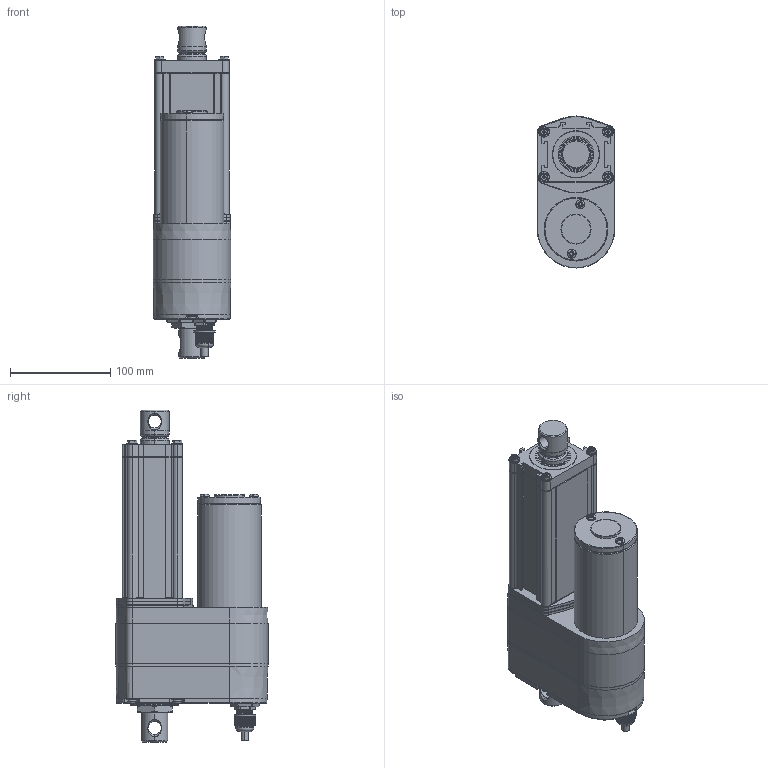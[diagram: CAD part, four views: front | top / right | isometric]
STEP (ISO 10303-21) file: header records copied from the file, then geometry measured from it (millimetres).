
FILE_DESCRIPTION (( 'STEP AP203' ), '1' );
FILE_NAME ('ID12-A-100-POT-IP69K.STEP', '2022-10-19T09:01:56', ( '' ), ( '' ), 'SwSTEP 2.0', 'SolidWorks 2020', '' );
FILE_SCHEMA (( 'CONFIG_CONTROL_DESIGN' ));
Products named in the file (3): ID12-A-2; ID12-A-100-POT-IP69K; ID12-A-1
Assembly tree (2 placements, depth 2):
  ID12-A-100-POT-IP69K
    ID12-A-1
    ID12-A-2
Bounding box: 77.3 x 151.8 x 331.5 mm (x, y, z)
Volume: 1979917.5 mm3; surface area: 205109.6 mm2
Topology: 2 solids, 30 shells, 2583 faces, 6647 edges, 4210 vertices
Faces by surface type: plane 1369, cylinder 785, bspline 163, cone 127, torus 123, sphere 16
Entity records: 87950 total; most frequent: CARTESIAN_POINT 27806, ORIENTED_EDGE 13258, DIRECTION 11684, EDGE_CURVE 6629, VERTEX_POINT 4210, AXIS2_PLACEMENT_3D 4205, LINE 3274, VECTOR 3274
